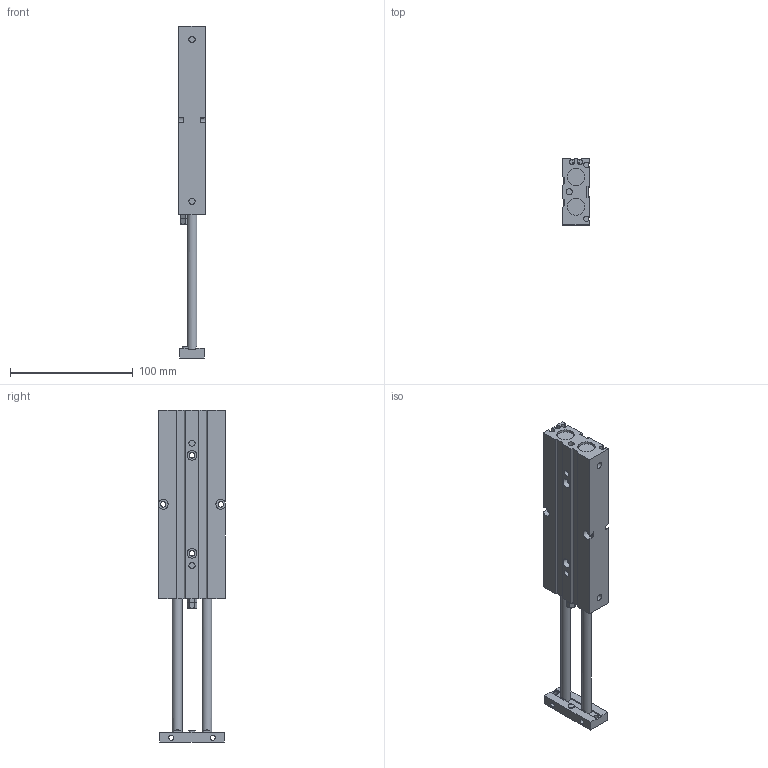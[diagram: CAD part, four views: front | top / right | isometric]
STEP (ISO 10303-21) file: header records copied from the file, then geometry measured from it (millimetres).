
FILE_DESCRIPTION((''),'2;1');
FILE_NAME('I:\3D電子目錄\氣缸\TD\TD16\TD16\TD16x100.stp','2007-08-06T09:39:01',('Administrator'),(''),'Autodesk Inventor 2008','Autodesk Inventor 2008','');
FILE_SCHEMA(('AUTOMOTIVE_DESIGN { 1 0 10303 214 1 1 1 1 }'));
Length unit declared in the file: millimetre
Products named in the file (1): TD16X100
Bounding box: 22 x 54 x 271 mm (x, y, z)
Volume: 181434 mm3; surface area: 44953 mm2
Topology: 1 solids, 3 shells, 179 faces, 465 edges, 304 vertices
Faces by surface type: plane 116, cylinder 42, bspline 12, cone 7, torus 2
Full cylindrical faces by diameter (mm): 4 x4, 4.5 x4, 5 x8, 6 x2, 7 x2, 8 x4, 14 x4
Entity records: 5819 total; most frequent: CARTESIAN_POINT 1627, ORIENTED_EDGE 824, DIRECTION 820, EDGE_CURVE 412, VERTEX_POINT 292, AXIS2_PLACEMENT_3D 274, VECTOR 272, LINE 272
